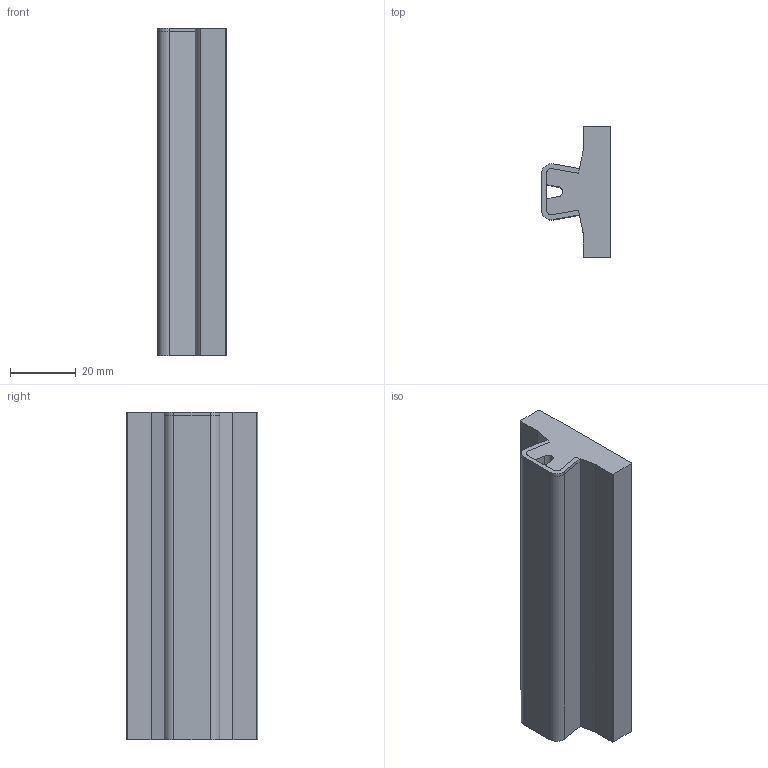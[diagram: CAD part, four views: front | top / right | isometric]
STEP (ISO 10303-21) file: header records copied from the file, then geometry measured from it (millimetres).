
FILE_DESCRIPTION(/* description */ ('Side guide flat 19059 PE/304'),/* implementation_level */ '2;1');
FILE_NAME(/* name */ 'C:\Users\apromt\Desktop\tekeningen\stp\SG1100150001.stp',/* time_stamp */ '2021-11-11T09:11:29+01:00',/* author */ ('APromt'),/* organization */ ('BCK Holland b.v.'),/* preprocessor_version */ 'ST-DEVELOPER v18.1',/* originating_system */ 'Autodesk Inventor 2021',/* authorisation */ '');
FILE_SCHEMA (('AUTOMOTIVE_DESIGN { 1 0 10303 214 3 1 1 }'));
Length unit declared in the file: millimetre
Products named in the file (1): SG1100150001
Bounding box: 21 x 40 x 100 mm (x, y, z)
Volume: 51994.9 mm3; surface area: 14943.6 mm2
Topology: 2 solids, 2 shells, 38 faces, 102 edges, 68 vertices
Faces by surface type: plane 25, cylinder 13
Entity records: 1262 total; most frequent: CARTESIAN_POINT 209, DIRECTION 206, ORIENTED_EDGE 204, EDGE_CURVE 102, LINE 76, VECTOR 76, VERTEX_POINT 68, AXIS2_PLACEMENT_3D 65
